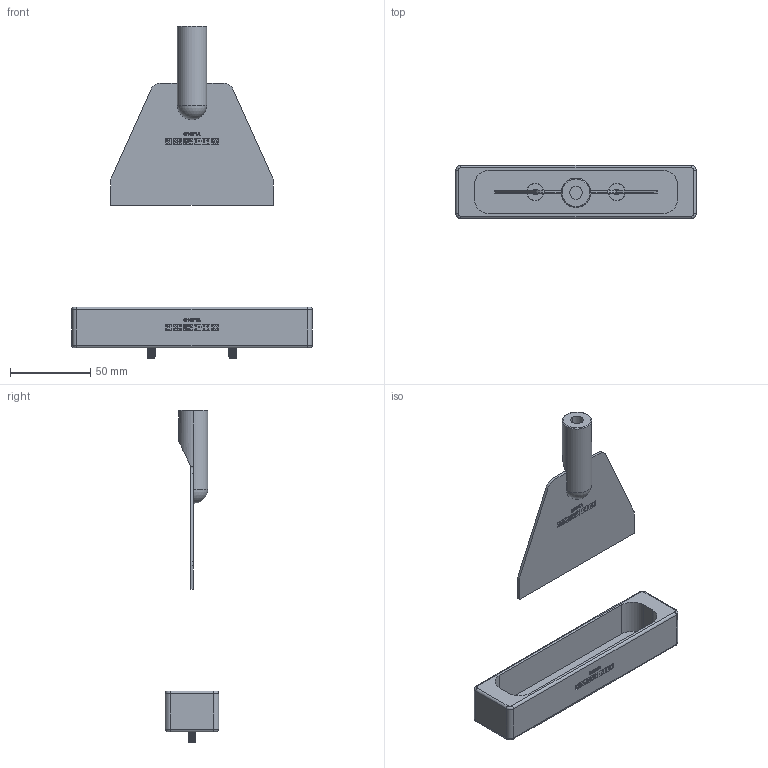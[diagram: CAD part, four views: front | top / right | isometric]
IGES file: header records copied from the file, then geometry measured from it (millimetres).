
Global section: file name: No Iges File Name specified; native system: Autodesk Inventor 2010; preprocessor: AutoDesk Inventor Iges Exporter R2010; author: mlampen; date: 20170419.151020; units: inch
Bounding box: 149.86 x 33.34 x 207.01 mm (x, y, z)
Volume: 72197.8 mm3; surface area: 42076.2 mm2
Topology: 4 solids, 8 shells, 2753 faces, 7651 edges, 5017 vertices
Faces by surface type: plane 2393, cylinder 126, cone 118, revolution 96, torus 16, bspline 3, sphere 1
